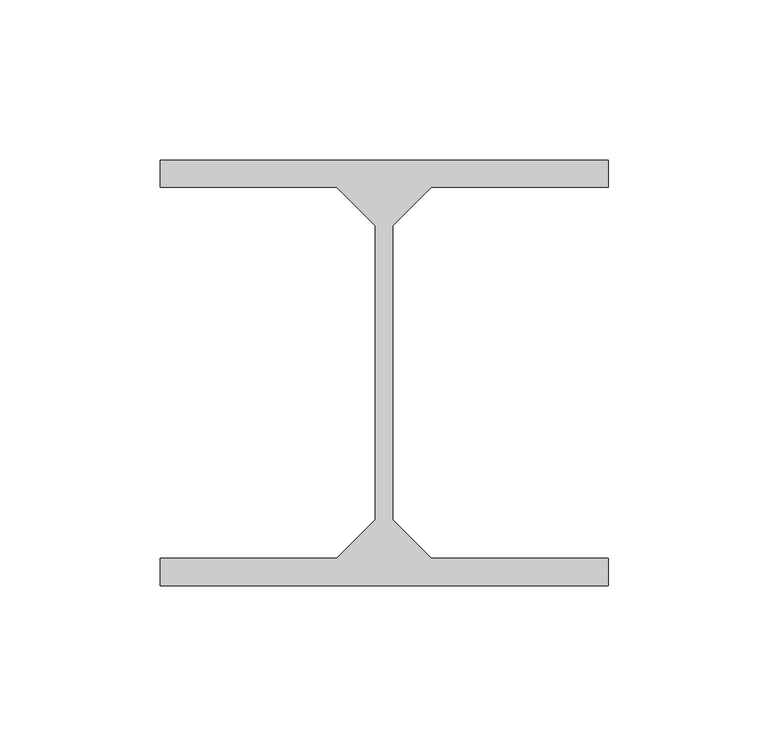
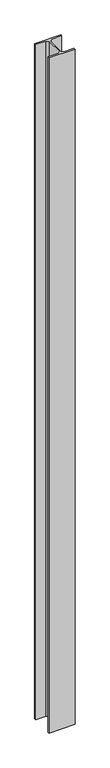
"""IFC4 building model written with IfcOpenShell, lengths in millimetres: beam geometry, Potelet 44246 : Potelet 44246."""

from ifc_helpers import new_model, si_unit, frame, origin, place, context, project, spatial, polyline, outline, extrude, source, transform, mapped, element, save


def beam_625af16d(model_context):
    return source(origin(), model_context, "Body", "SweptSolid", [
        extrude(outline(polyline([(3642.4999999, -23519.5), (3782.4999999, -23519.5), (3782.4999999, -23528.0), (3727.2499999, -23528.0), (3715.2499999, -23540.0), (3715.2499999, -23632.0), (3727.2499999, -23644.0), (3782.4999999, -23644.0), (3782.4999999, -23652.5), (3642.4999999, -23652.5), (3642.4999999, -23644.0), (3697.7499999, -23644.0), (3709.7499999, -23632.0), (3709.7499999, -23540.0), (3697.7499999, -23528.0), (3642.4999999, -23528.0), (3642.4999999, -23519.5)])), frame((0.0, 0.0, 7410.0), z_axis=(0.0, 0.0, 1.0), x_axis=(1.0, 0.0, 0.0)), (0.0, 0.0, 1.0), 3825.9485543),
    ])


if __name__ == "__main__":
    model = new_model("IFC4")
    model_context = context("Model", 3, world=origin())
    ifc_project = project(units=[si_unit("LENGTHUNIT", "METRE", prefix="MILLI")], contexts=[model_context])
    site = spatial("IfcSite", under=ifc_project)
    building = spatial("IfcBuilding", under=site)
    placement = place(None, origin())
    beam_shape = beam_625af16d(model_context)
    element("IfcBeam", 1, ObjectType="Potelet 44246 : Potelet 44246", at=placement, inside=building, context=model_context, shape_type="MappedRepresentation", body=[
        mapped(beam_shape, transform((0.0, 0.0, 0.0), x_axis=(1.0, 0.0, 0.0), y_axis=(0.0, 1.0, 0.0), z_axis=(0.0, 0.0, 1.0))),
    ])
    save(model, "model.ifc")
